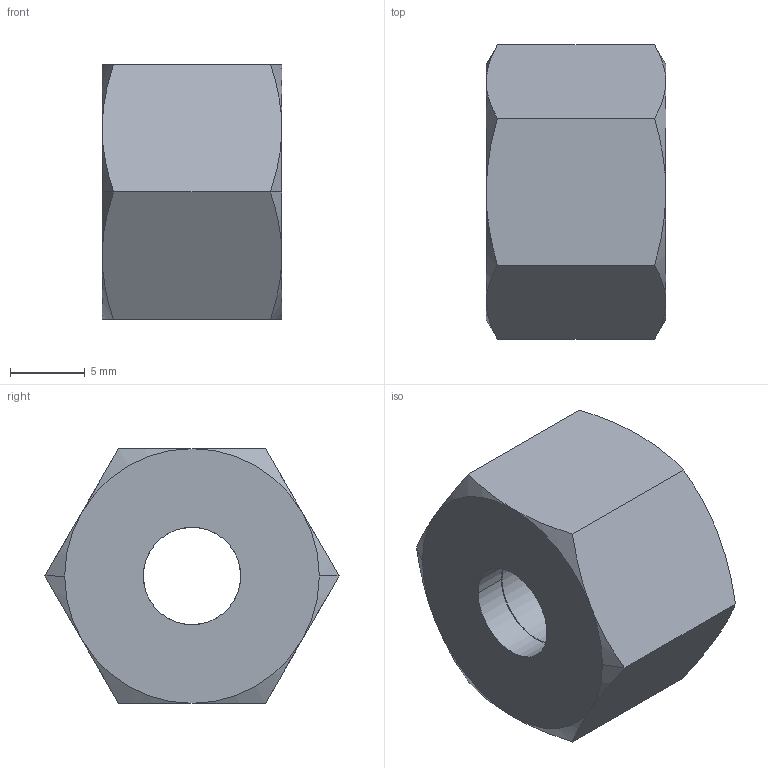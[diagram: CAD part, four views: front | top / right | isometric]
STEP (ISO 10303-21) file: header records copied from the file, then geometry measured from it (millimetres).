
FILE_DESCRIPTION((''),'2;1');
FILE_NAME('W:\C14\28451.stp','2005-02-11T14:59:07',('VCRC_L'),(''),'Autodesk Inventor 9','Autodesk Inventor 9','');
FILE_SCHEMA(('AUTOMOTIVE_DESIGN { 1 0 10303 214 1 1 1 1 }'));
Length unit declared in the file: millimetre
Products named in the file (1): 28451
Bounding box: 12 x 19.64 x 17 mm (x, y, z)
Volume: 1571.9 mm3; surface area: 1958.7 mm2
Topology: 2 solids, 2 shells, 65 faces, 147 edges, 89 vertices
Faces by surface type: cone 30, cylinder 14, plane 13, torus 4, bspline 4
Entity records: 1996 total; most frequent: CARTESIAN_POINT 526, DIRECTION 332, ORIENTED_EDGE 294, AXIS2_PLACEMENT_3D 147, EDGE_CURVE 147, VERTEX_POINT 89, CIRCLE 85, EDGE_LOOP 72
